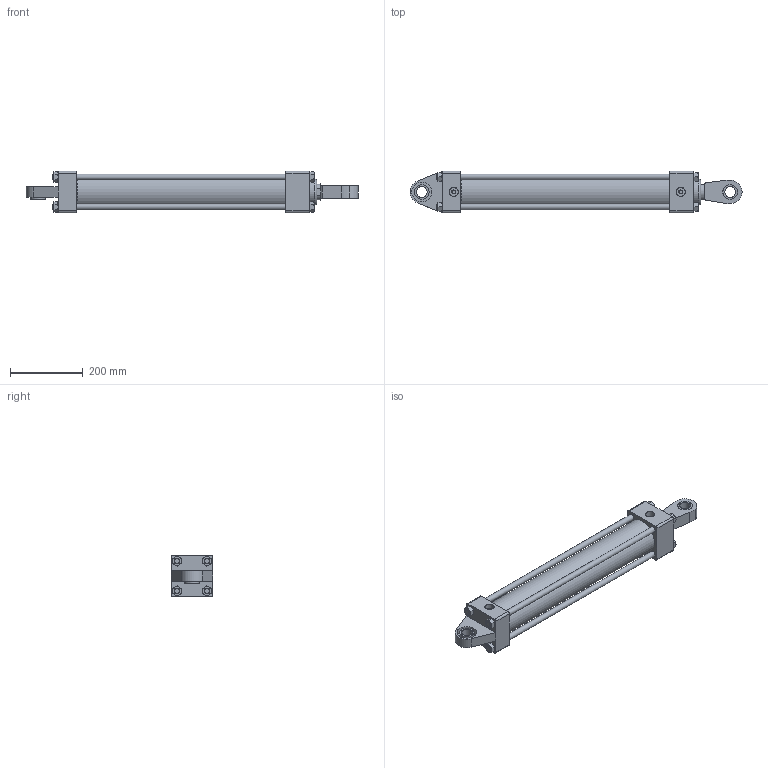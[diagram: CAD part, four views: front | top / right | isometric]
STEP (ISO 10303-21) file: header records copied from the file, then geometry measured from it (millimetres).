
FILE_DESCRIPTION(/* description */ (''),/* implementation_level */ '2;1');
FILE_NAME(/* name */ 'KHMC_80_45_500_MONTAJ v20.step',/* time_stamp */ '2024-02-04T17:33:08+03:00',/* author */ (''),/* organization */ (''),/* preprocessor_version */ 'ST-DEVELOPER v20',/* originating_system */ 'Autodesk Translation Framework v12.20.1.177',/* authorisation */ '');
FILE_SCHEMA (('AUTOMOTIVE_DESIGN { 1 0 10303 214 3 1 1 }'));
Products named in the file (35): KHMC_80_45_500_MONTAJ; 80_95_H_BORU; Bileşen1; 80_ARKA_KAPAK; Bileşen1_1; 80_ÖN_KAPAK; Bileşen1_2; K06-045; Bileşen1_3; K68-45X50X15_2(K68-045); TPY_80_40; TPY_TPY_80; K18-80X66X22_4X76X5_2; KO-40X3; K0_40_3; 45_MİL; Bileşen1_4; 16_SAPLAMA; 16_SAPLAMA_1; 16_SAPLAMA_2; 16_SAPLAMA_3; Bileşen1_5; 91423A210_Fine-Thread Medium-Strength Steel Hex Nut; 91423A210_Fine-Thread Medium-Strength Steel Hex Nut(Ayna); 91423A210_Fine-Thread Medium-Strength Steel Hex Nut(Ayna) (1); 91423A210_Fine-Thread Medium-Strength Steel Hex Nut(Ayna)(Ayna); 91423A210_Fine-Thread Medium-Strength Steel Hex Nut(Ayna) (2); 91423A210_Fine-Thread Medium-Strength Steel Hex Nut(Ayna)(Ayna) (1); 91423A210_Fine-Thread Medium-Strength Steel Hex Nut(Ayna) (1)(Ayna); 91423A210_Fine-Thread Medium-Strength Steel Hex Nut(Ayna)(Ayna)(Ayna); BRONZ; ÖN_MAFSAL_PASLANMAZ; Bileşen1_6; BRONZ_1; Bileşen1_7
Assembly tree (38 placements, depth 4):
  KHMC_80_45_500_MONTAJ
    80_95_H_BORU
      Bileşen1
    80_ARKA_KAPAK
      Bileşen1_1
    80_ÖN_KAPAK
      Bileşen1_2
      K06-045
        Bileşen1_3
      K68-45X50X15_2(K68-045)
    TPY_80_40
      TPY_TPY_80
      K18-80X66X22_4X76X5_2
      KO-40X3
        K0_40_3
    45_MİL
      Bileşen1_4
    16_SAPLAMA
      Bileşen1_5
    16_SAPLAMA_1
      Bileşen1_5
    16_SAPLAMA_2
      Bileşen1_5
    16_SAPLAMA_3
      Bileşen1_5
    91423A210_Fine-Thread Medium-Strength Steel Hex Nut
    91423A210_Fine-Thread Medium-Strength Steel Hex Nut(Ayna)
    91423A210_Fine-Thread Medium-Strength Steel Hex Nut(Ayna) (1)
    91423A210_Fine-Thread Medium-Strength Steel Hex Nut(Ayna)(Ayna)
    91423A210_Fine-Thread Medium-Strength Steel Hex Nut(Ayna) (2)
    91423A210_Fine-Thread Medium-Strength Steel Hex Nut(Ayna)(Ayna) (1)
    91423A210_Fine-Thread Medium-Strength Steel Hex Nut(Ayna) (1)(Ayna)
    91423A210_Fine-Thread Medium-Strength Steel Hex Nut(Ayna)(Ayna)(Ayna)
    BRONZ
      Bileşen1_7
    ÖN_MAFSAL_PASLANMAZ
      Bileşen1_6
    BRONZ_1
      Bileşen1_7
Bounding box: 915.5 x 114 x 114 mm (x, y, z)
Volume: 4731566.2 mm3; surface area: 869013 mm2
Topology: 26 solids, 26 shells, 663 faces, 1515 edges, 948 vertices
Faces by surface type: cylinder 233, cone 210, plane 175, bspline 26, torus 19
Full cylindrical faces by diameter (mm): 10 x2, 15.85 x8, 16 x76, 24.387 x2, 27.529 x11, 28.023 x1, 29.822 x12, 30 x2, 33.526 x1, 34.85 x1, 40 x7, 45 x1, 45.5 x3, 46 x1, 46.107 x1, 48.2 x1, 50 x2, 55 x2, 55.58 x1, 55.6 x1, 66 x5, 70 x1, 70.06 x2, 70.26 x2, 73.1 x2, 73.8 x2, 74.6 x2, 80 x7, 95 x1
Entity records: 58881 total; most frequent: CARTESIAN_POINT 44226, ORIENTED_EDGE 2940, DIRECTION 2860, EDGE_CURVE 1470, AXIS2_PLACEMENT_3D 1226, VERTEX_POINT 920, EDGE_LOOP 728, FACE_OUTER_BOUND 632
